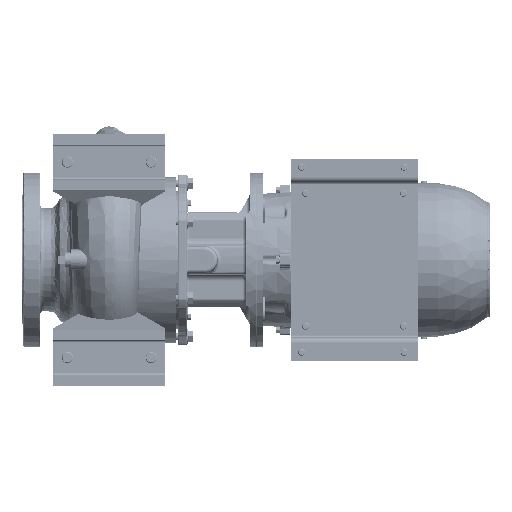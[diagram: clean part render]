
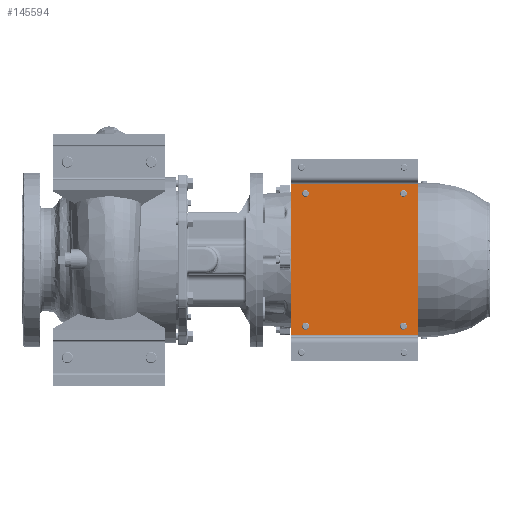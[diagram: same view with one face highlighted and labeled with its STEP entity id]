
A CAD part, front view. The second image highlights one B-rep face of the part: STEP entity #145594.
In plain terms, the highlighted planar face has unit normal (0, -1, 0).
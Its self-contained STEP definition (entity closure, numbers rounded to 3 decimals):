
#387 = DIRECTION ( 'NONE',  ( 1., 0., 0. ) ) ;
#3706 = CARTESIAN_POINT ( 'NONE',  ( 240., 78., -166. ) ) ;
#4590 = DIRECTION ( 'NONE',  ( 0., 1., 0. ) ) ;
#7135 = EDGE_CURVE ( 'NONE', #139027, #46173, #132045, .T. ) ;
#9110 = CIRCLE ( 'NONE', #82706, 5. ) ;
#13253 = CIRCLE ( 'NONE', #42764, 5. ) ;
#19372 = CARTESIAN_POINT ( 'NONE',  ( 50., 78., -161. ) ) ;
#20066 = FACE_BOUND ( 'NONE', #145968, .T. ) ;
#24199 = EDGE_LOOP ( 'NONE', ( #214952, #174542, #133640, #97015 ) ) ;
#24873 = CARTESIAN_POINT ( 'NONE',  ( 253., 78., 0. ) ) ;
#27669 = DIRECTION ( 'NONE',  ( 1., 0., 0. ) ) ;
#28808 = DIRECTION ( 'NONE',  ( 0., 1., 0. ) ) ;
#29775 = CIRCLE ( 'NONE', #213939, 5. ) ;
#33746 = EDGE_LOOP ( 'NONE', ( #227993, #124495 ) ) ;
#34729 = CARTESIAN_POINT ( 'NONE',  ( 240., 78., -21. ) ) ;
#35020 = DIRECTION ( 'NONE',  ( 0., 1., 0. ) ) ;
#35078 = CARTESIAN_POINT ( 'NONE',  ( 253., 78., -182. ) ) ;
#35893 = CARTESIAN_POINT ( 'NONE',  ( 240., 78., -21. ) ) ;
#38094 = CARTESIAN_POINT ( 'NONE',  ( 240., 78., -161. ) ) ;
#40027 = ORIENTED_EDGE ( 'NONE', *, *, #127383, .T. ) ;
#42764 = AXIS2_PLACEMENT_3D ( 'NONE', #169622, #28808, #27669 ) ;
#45059 = VERTEX_POINT ( 'NONE', #106575 ) ;
#46173 = VERTEX_POINT ( 'NONE', #198147 ) ;
#47261 = VERTEX_POINT ( 'NONE', #79546 ) ;
#51476 = EDGE_CURVE ( 'NONE', #47261, #202798, #149198, .T. ) ;
#52020 = DIRECTION ( 'NONE',  ( 1., 0., 0. ) ) ;
#52359 = DIRECTION ( 'NONE',  ( 0., 0., 1. ) ) ;
#52971 = VECTOR ( 'NONE', #52359, 1000. ) ;
#56619 = DIRECTION ( 'NONE',  ( 1., 0., 0. ) ) ;
#56638 = CIRCLE ( 'NONE', #134012, 5. ) ;
#61676 = AXIS2_PLACEMENT_3D ( 'NONE', #172389, #35020, #387 ) ;
#61987 = DIRECTION ( 'NONE',  ( 1., 0., 0. ) ) ;
#65475 = VECTOR ( 'NONE', #56619, 1000. ) ;
#65812 = VECTOR ( 'NONE', #94991, 1000. ) ;
#69387 = CARTESIAN_POINT ( 'NONE',  ( 50., 78., -166. ) ) ;
#70398 = EDGE_CURVE ( 'NONE', #45059, #157961, #13253, .T. ) ;
#72406 = VECTOR ( 'NONE', #184129, 1000. ) ;
#73697 = AXIS2_PLACEMENT_3D ( 'NONE', #19372, #195912, #163600 ) ;
#73911 = CARTESIAN_POINT ( 'NONE',  ( 253., 78., -182. ) ) ;
#75890 = DIRECTION ( 'NONE',  ( 0., 1., 0. ) ) ;
#79546 = CARTESIAN_POINT ( 'NONE',  ( 37., 78., -182. ) ) ;
#80115 = CIRCLE ( 'NONE', #61676, 5. ) ;
#80240 = VERTEX_POINT ( 'NONE', #153532 ) ;
#80385 = CARTESIAN_POINT ( 'NONE',  ( 253., 78., 0. ) ) ;
#82524 = VERTEX_POINT ( 'NONE', #175495 ) ;
#82706 = AXIS2_PLACEMENT_3D ( 'NONE', #34729, #85484, #52020 ) ;
#82763 = AXIS2_PLACEMENT_3D ( 'NONE', #220053, #75890, #61987 ) ;
#85484 = DIRECTION ( 'NONE',  ( 0., 1., 0. ) ) ;
#89306 = DIRECTION ( 'NONE',  ( 0., -1., 0. ) ) ;
#90458 = PLANE ( 'NONE',  #127173 ) ;
#94991 = DIRECTION ( 'NONE',  ( 0., 0., 1. ) ) ;
#95252 = LINE ( 'NONE', #24873, #72406 ) ;
#96897 = CARTESIAN_POINT ( 'NONE',  ( 37., 78., 0. ) ) ;
#97015 = ORIENTED_EDGE ( 'NONE', *, *, #116591, .T. ) ;
#98707 = VERTEX_POINT ( 'NONE', #69387 ) ;
#101356 = EDGE_LOOP ( 'NONE', ( #132555, #40027 ) ) ;
#103165 = LINE ( 'NONE', #35078, #52971 ) ;
#106575 = CARTESIAN_POINT ( 'NONE',  ( 50., 78., -26. ) ) ;
#109270 = CARTESIAN_POINT ( 'NONE',  ( 253., 78., -182. ) ) ;
#111862 = DIRECTION ( 'NONE',  ( 1., 0., 0. ) ) ;
#114551 = EDGE_CURVE ( 'NONE', #157961, #45059, #56638, .T. ) ;
#116142 = DIRECTION ( 'NONE',  ( 0., 1., 0. ) ) ;
#116591 = EDGE_CURVE ( 'NONE', #165385, #219587, #103165, .T. ) ;
#118892 = EDGE_CURVE ( 'NONE', #46173, #139027, #141738, .T. ) ;
#121969 = EDGE_CURVE ( 'NONE', #202798, #219587, #95252, .T. ) ;
#124495 = ORIENTED_EDGE ( 'NONE', *, *, #7135, .T. ) ;
#124860 = EDGE_CURVE ( 'NONE', #47261, #165385, #142006, .T. ) ;
#127173 = AXIS2_PLACEMENT_3D ( 'NONE', #196613, #89306, #144675 ) ;
#127383 = EDGE_CURVE ( 'NONE', #98707, #80240, #80115, .T. ) ;
#130243 = EDGE_CURVE ( 'NONE', #82524, #154653, #29775, .T. ) ;
#132045 = CIRCLE ( 'NONE', #209485, 5. ) ;
#132555 = ORIENTED_EDGE ( 'NONE', *, *, #225231, .T. ) ;
#133640 = ORIENTED_EDGE ( 'NONE', *, *, #124860, .T. ) ;
#134012 = AXIS2_PLACEMENT_3D ( 'NONE', #221175, #116142, #223432 ) ;
#138980 = CARTESIAN_POINT ( 'NONE',  ( 240., 78., -26. ) ) ;
#139027 = VERTEX_POINT ( 'NONE', #3706 ) ;
#141738 = CIRCLE ( 'NONE', #82763, 5. ) ;
#142006 = LINE ( 'NONE', #73911, #65475 ) ;
#142373 = FACE_BOUND ( 'NONE', #33746, .T. ) ;
#143521 = FACE_BOUND ( 'NONE', #101356, .T. ) ;
#144675 = DIRECTION ( 'NONE',  ( 1., 0., 0. ) ) ;
#145594 = ADVANCED_FACE ( 'NONE', ( #20066, #143521, #177044, #142373, #227792 ), #90458, .T. ) ;
#145968 = EDGE_LOOP ( 'NONE', ( #182254, #153323 ) ) ;
#149198 = LINE ( 'NONE', #184992, #65812 ) ;
#153323 = ORIENTED_EDGE ( 'NONE', *, *, #199191, .T. ) ;
#153532 = CARTESIAN_POINT ( 'NONE',  ( 50., 78., -156. ) ) ;
#154653 = VERTEX_POINT ( 'NONE', #138980 ) ;
#157961 = VERTEX_POINT ( 'NONE', #183319 ) ;
#163600 = DIRECTION ( 'NONE',  ( 1., 0., 0. ) ) ;
#165385 = VERTEX_POINT ( 'NONE', #109270 ) ;
#169622 = CARTESIAN_POINT ( 'NONE',  ( 50., 78., -21. ) ) ;
#171042 = ORIENTED_EDGE ( 'NONE', *, *, #114551, .T. ) ;
#172389 = CARTESIAN_POINT ( 'NONE',  ( 50., 78., -161. ) ) ;
#174542 = ORIENTED_EDGE ( 'NONE', *, *, #51476, .F. ) ;
#175495 = CARTESIAN_POINT ( 'NONE',  ( 240., 78., -16. ) ) ;
#176680 = DIRECTION ( 'NONE',  ( 0., 1., 0. ) ) ;
#177044 = FACE_BOUND ( 'NONE', #204636, .T. ) ;
#182254 = ORIENTED_EDGE ( 'NONE', *, *, #130243, .T. ) ;
#183319 = CARTESIAN_POINT ( 'NONE',  ( 50., 78., -16. ) ) ;
#184129 = DIRECTION ( 'NONE',  ( 1., 0., 0. ) ) ;
#184992 = CARTESIAN_POINT ( 'NONE',  ( 37., 78., -182. ) ) ;
#193980 = DIRECTION ( 'NONE',  ( 1., 0., 0. ) ) ;
#195912 = DIRECTION ( 'NONE',  ( 0., 1., 0. ) ) ;
#196613 = CARTESIAN_POINT ( 'NONE',  ( 253., 78., -182. ) ) ;
#198147 = CARTESIAN_POINT ( 'NONE',  ( 240., 78., -156. ) ) ;
#199191 = EDGE_CURVE ( 'NONE', #154653, #82524, #9110, .T. ) ;
#202798 = VERTEX_POINT ( 'NONE', #96897 ) ;
#204636 = EDGE_LOOP ( 'NONE', ( #171042, #205059 ) ) ;
#205059 = ORIENTED_EDGE ( 'NONE', *, *, #70398, .T. ) ;
#209485 = AXIS2_PLACEMENT_3D ( 'NONE', #38094, #4590, #111862 ) ;
#213939 = AXIS2_PLACEMENT_3D ( 'NONE', #35893, #176680, #193980 ) ;
#214952 = ORIENTED_EDGE ( 'NONE', *, *, #121969, .F. ) ;
#219587 = VERTEX_POINT ( 'NONE', #80385 ) ;
#220053 = CARTESIAN_POINT ( 'NONE',  ( 240., 78., -161. ) ) ;
#221110 = CIRCLE ( 'NONE', #73697, 5. ) ;
#221175 = CARTESIAN_POINT ( 'NONE',  ( 50., 78., -21. ) ) ;
#223432 = DIRECTION ( 'NONE',  ( 1., 0., 0. ) ) ;
#225231 = EDGE_CURVE ( 'NONE', #80240, #98707, #221110, .T. ) ;
#227792 = FACE_OUTER_BOUND ( 'NONE', #24199, .T. ) ;
#227993 = ORIENTED_EDGE ( 'NONE', *, *, #118892, .T. ) ;
